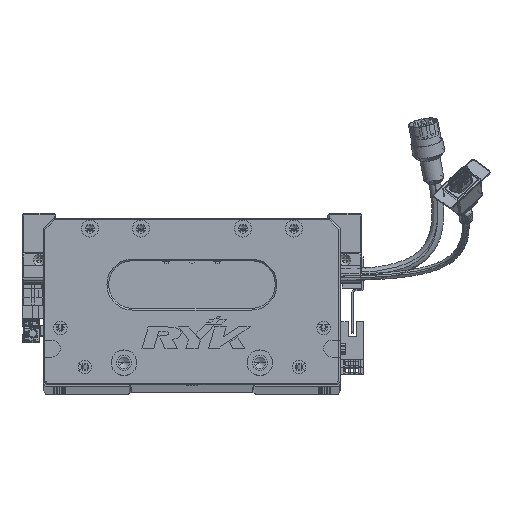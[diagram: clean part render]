
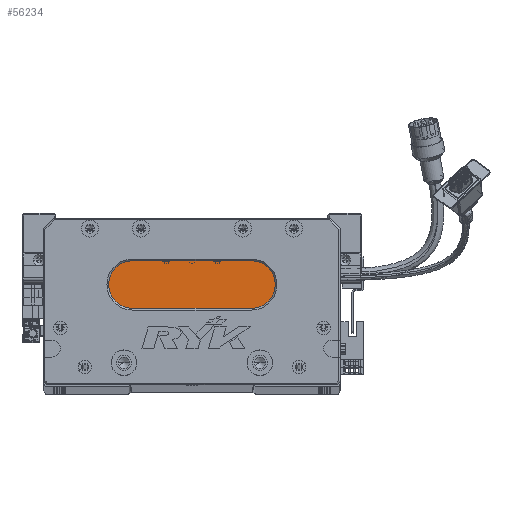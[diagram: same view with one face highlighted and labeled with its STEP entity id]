
A CAD part, top view. The second image highlights one B-rep face of the part: STEP entity #56234.
In plain terms, the highlighted planar face has unit normal (0, 0, 1) as drawn and (0, 0, -1) by its records, which use the part's own axes.
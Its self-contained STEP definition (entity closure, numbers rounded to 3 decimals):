
#2854 = FACE_OUTER_BOUND ( 'NONE', #70290, .T. ) ;
#3347 = AXIS2_PLACEMENT_3D ( 'NONE', #45021, #91729, #45407 ) ;
#12809 = VERTEX_POINT ( 'NONE', #37022 ) ;
#19367 = DIRECTION ( 'NONE',  ( 0., 0., -1. ) ) ;
#21414 = CARTESIAN_POINT ( 'NONE',  ( 122.5, 59., 18. ) ) ;
#22585 = CIRCLE ( 'NONE', #75363, 14. ) ;
#23436 = DIRECTION ( 'NONE',  ( 1., 0., 0. ) ) ;
#25204 = LINE ( 'NONE', #85748, #72917 ) ;
#26286 = ORIENTED_EDGE ( 'NONE', *, *, #69457, .T. ) ;
#27183 = VERTEX_POINT ( 'NONE', #110686 ) ;
#27332 = CIRCLE ( 'NONE', #88549, 14. ) ;
#31457 = DIRECTION ( 'NONE',  ( -1., 0., 0. ) ) ;
#31513 = CARTESIAN_POINT ( 'NONE',  ( 52.5, 73., 18. ) ) ;
#31664 = ORIENTED_EDGE ( 'NONE', *, *, #103171, .T. ) ;
#32410 = EDGE_CURVE ( 'NONE', #12809, #38854, #27332, .T. ) ;
#37022 = CARTESIAN_POINT ( 'NONE',  ( 38.5, 59., 18. ) ) ;
#38854 = VERTEX_POINT ( 'NONE', #31513 ) ;
#44173 = CIRCLE ( 'NONE', #57792, 14. ) ;
#44576 = PLANE ( 'NONE',  #3347 ) ;
#45021 = CARTESIAN_POINT ( 'NONE',  ( 122.5, 59., 18. ) ) ;
#45407 = DIRECTION ( 'NONE',  ( -1., 0., 0. ) ) ;
#46967 = DIRECTION ( 'NONE',  ( -1., 0., 0. ) ) ;
#47067 = ORIENTED_EDGE ( 'NONE', *, *, #32410, .T. ) ;
#49052 = EDGE_CURVE ( 'NONE', #38854, #51077, #56382, .T. ) ;
#51077 = VERTEX_POINT ( 'NONE', #71438 ) ;
#56234 = ADVANCED_FACE ( 'NONE', ( #2854 ), #44576, .T. ) ;
#56382 = LINE ( 'NONE', #118304, #63851 ) ;
#57792 = AXIS2_PLACEMENT_3D ( 'NONE', #66742, #123499, #67188 ) ;
#61299 = ORIENTED_EDGE ( 'NONE', *, *, #49052, .T. ) ;
#63851 = VECTOR ( 'NONE', #23436, 1000. ) ;
#66742 = CARTESIAN_POINT ( 'NONE',  ( 52.5, 59., 18. ) ) ;
#67188 = DIRECTION ( 'NONE',  ( -1., 0., 0. ) ) ;
#69457 = EDGE_CURVE ( 'NONE', #51077, #105264, #22585, .T. ) ;
#70290 = EDGE_LOOP ( 'NONE', ( #26286, #71411, #31664, #47067, #61299 ) ) ;
#71411 = ORIENTED_EDGE ( 'NONE', *, *, #76297, .T. ) ;
#71438 = CARTESIAN_POINT ( 'NONE',  ( 122.5, 73., 18. ) ) ;
#72917 = VECTOR ( 'NONE', #46967, 1000. ) ;
#75363 = AXIS2_PLACEMENT_3D ( 'NONE', #21414, #79481, #31457 ) ;
#76297 = EDGE_CURVE ( 'NONE', #105264, #27183, #25204, .T. ) ;
#76619 = CARTESIAN_POINT ( 'NONE',  ( 52.5, 59., 18. ) ) ;
#76992 = DIRECTION ( 'NONE',  ( -1., 0., 0. ) ) ;
#79481 = DIRECTION ( 'NONE',  ( 0., 0., -1. ) ) ;
#85748 = CARTESIAN_POINT ( 'NONE',  ( 122.5, 45., 18. ) ) ;
#88549 = AXIS2_PLACEMENT_3D ( 'NONE', #76619, #19367, #76992 ) ;
#91729 = DIRECTION ( 'NONE',  ( 0., 0., -1. ) ) ;
#103171 = EDGE_CURVE ( 'NONE', #27183, #12809, #44173, .T. ) ;
#105264 = VERTEX_POINT ( 'NONE', #114118 ) ;
#110686 = CARTESIAN_POINT ( 'NONE',  ( 52.5, 45., 18. ) ) ;
#114118 = CARTESIAN_POINT ( 'NONE',  ( 122.5, 45., 18. ) ) ;
#118304 = CARTESIAN_POINT ( 'NONE',  ( 122.5, 73., 18. ) ) ;
#123499 = DIRECTION ( 'NONE',  ( 0., 0., -1. ) ) ;
